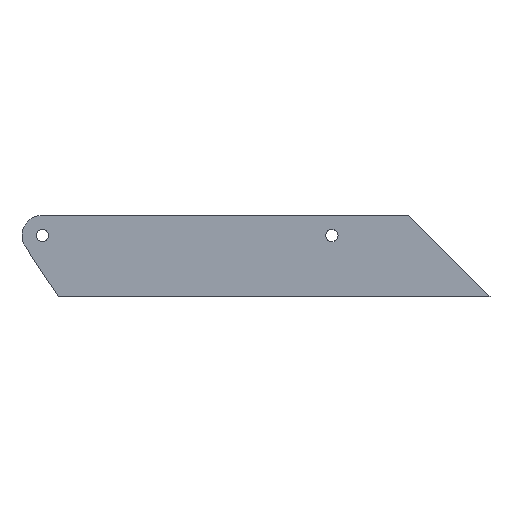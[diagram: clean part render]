
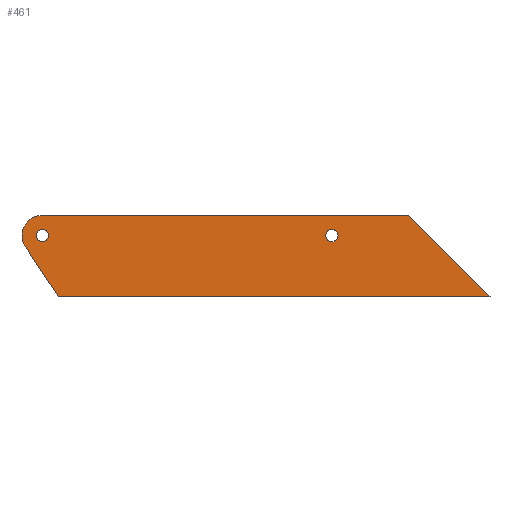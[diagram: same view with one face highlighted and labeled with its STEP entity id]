
A CAD part, top view. The second image highlights one B-rep face of the part: STEP entity #461.
In plain terms, the highlighted planar face has unit normal (0, 0, 1).
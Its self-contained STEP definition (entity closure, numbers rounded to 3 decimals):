
#213=CIRCLE('',#436,15.);
#216=CIRCLE('',#444,4.5);
#217=CIRCLE('',#446,4.5);
#250=ORIENTED_EDGE('',*,*,#302,.F.);
#251=ORIENTED_EDGE('',*,*,#313,.F.);
#252=ORIENTED_EDGE('',*,*,#311,.F.);
#253=ORIENTED_EDGE('',*,*,#308,.F.);
#254=ORIENTED_EDGE('',*,*,#305,.F.);
#255=ORIENTED_EDGE('',*,*,#316,.F.);
#256=ORIENTED_EDGE('',*,*,#317,.F.);
#262=VECTOR('',#353,1.);
#266=VECTOR('',#365,1.);
#269=VECTOR('',#370,1.);
#271=VECTOR('',#374,1.);
#275=LINE('',#399,#262);
#279=LINE('',#411,#266);
#282=LINE('',#417,#269);
#284=LINE('',#420,#271);
#286=VERTEX_POINT('',#393);
#288=VERTEX_POINT('',#397);
#290=VERTEX_POINT('',#402);
#292=VERTEX_POINT('',#408);
#294=VERTEX_POINT('',#414);
#297=VERTEX_POINT('',#427);
#298=VERTEX_POINT('',#430);
#302=EDGE_CURVE('',#288,#286,#275,.T.);
#305=EDGE_CURVE('',#286,#290,#213,.T.);
#308=EDGE_CURVE('',#290,#292,#279,.T.);
#311=EDGE_CURVE('',#292,#294,#282,.T.);
#313=EDGE_CURVE('',#294,#288,#284,.T.);
#316=EDGE_CURVE('',#297,#297,#216,.T.);
#317=EDGE_CURVE('',#298,#298,#217,.T.);
#328=EDGE_LOOP('',(#250,#251,#252,#253,#254));
#329=EDGE_LOOP('',(#255));
#330=EDGE_LOOP('',(#256));
#343=FACE_BOUND('',#328,.T.);
#344=FACE_BOUND('',#329,.T.);
#345=FACE_BOUND('',#330,.T.);
#353=DIRECTION('',(-24.383,36.699,0.));
#359=DIRECTION('',(0.,0.,-1.));
#360=DIRECTION('',(0.,-15.,0.));
#365=DIRECTION('',(269.822,0.,0.));
#370=DIRECTION('',(60.,-60.,0.));
#374=DIRECTION('',(-317.933,0.,0.));
#383=DIRECTION('',(0.,0.,1.));
#384=DIRECTION('',(0.,-4.5,0.));
#385=DIRECTION('',(0.,0.,1.));
#386=DIRECTION('',(0.,-1.,0.));
#387=DIRECTION('',(0.,0.,1.));
#388=DIRECTION('',(0.,-4.5,0.));
#393=CARTESIAN_POINT('',(7438.652,12983.059,8.));
#397=CARTESIAN_POINT('',(7463.035,12946.36,8.));
#399=CARTESIAN_POINT('',(7463.035,12946.36,8.));
#402=CARTESIAN_POINT('',(7451.146,13006.36,8.));
#405=CARTESIAN_POINT('',(7451.146,12991.36,8.));
#408=CARTESIAN_POINT('',(7720.968,13006.36,8.));
#411=CARTESIAN_POINT('',(7451.146,13006.36,8.));
#414=CARTESIAN_POINT('',(7780.968,12946.36,8.));
#417=CARTESIAN_POINT('',(7720.968,13006.36,8.));
#420=CARTESIAN_POINT('',(7780.968,12946.36,8.));
#427=CARTESIAN_POINT('',(7451.146,12986.86,8.));
#428=CARTESIAN_POINT('',(7451.146,12991.36,8.));
#429=CARTESIAN_POINT('',(0.,0.,8.));
#430=CARTESIAN_POINT('',(7664.504,12986.86,8.));
#431=CARTESIAN_POINT('',(7664.504,12991.36,8.));
#436=AXIS2_PLACEMENT_3D('',#405,#359,#360);
#444=AXIS2_PLACEMENT_3D('',#428,#383,#384);
#445=AXIS2_PLACEMENT_3D('',#429,#385,#386);
#446=AXIS2_PLACEMENT_3D('',#431,#387,#388);
#453=PLANE('',#445);
#461=ADVANCED_FACE('',(#343,#344,#345),#453,.T.);
